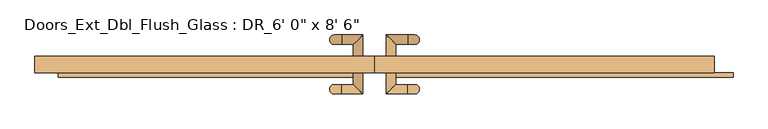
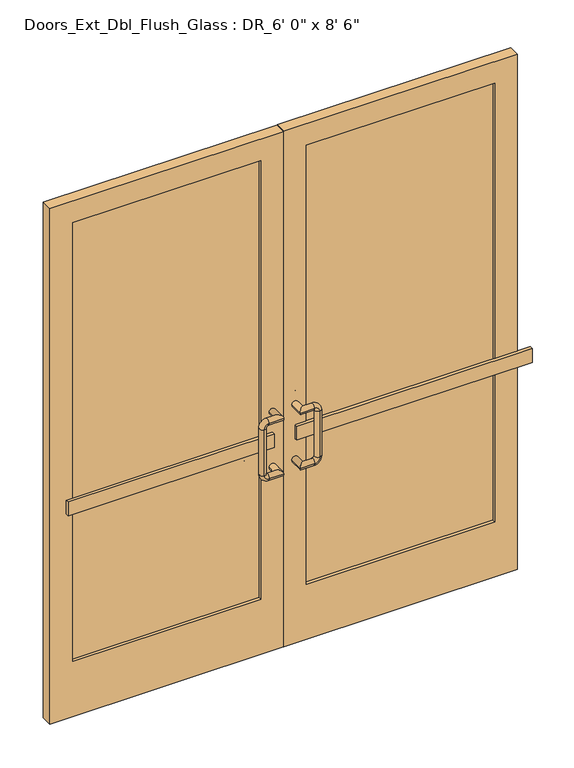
"""IFC4 building model written with IfcOpenShell, lengths in millimetres: door geometry."""

from ifc_helpers import new_model, si_unit, point, frame, origin, place, context, project, spatial, polyline, circle_curve, ellipse_curve, trimmed, outline, extrude, source, transform, mapped, element, save
from ifc_brep_helpers import plane_surface, cylinder_surface, revolved_surface, advanced_brep


def door_29626e21(model_context):
    return source(origin(), model_context, "Body", "SolidModel", [
        advanced_brep(
        [(-31.75, 57.15, 762.0), (-57.15, 57.15, 762.0), (-31.75, 114.3, 762.0), (-57.15, 88.9, 762.0), (-88.9, 114.3, 762.0), (-88.9, 88.9, 762.0), (-107.95, 88.9, 781.05), (-107.95, 114.3, 781.05), (-107.95, 114.3, 971.55), (-107.95, 88.9, 971.55), (-88.9, 88.9, 990.6), (-88.9, 114.3, 990.6), (-31.75, 114.3, 990.6), (-57.15, 88.9, 990.6), (-31.75, 57.15, 990.6), (-57.15, 57.15, 990.6)],
        [
            (0, 1, circle_curve(frame((-44.45, 57.15, 762.0), z_axis=(0.0, -1.0, 0.0), x_axis=(-1.0, 0.0, 0.0)), 12.7)),
            (1, 0, circle_curve(frame((-44.45, 57.15, 762.0), z_axis=(0.0, -1.0, 0.0), x_axis=(-1.0, 0.0, 0.0)), 12.7)),
            (0, 2),
            (2, 3, ellipse_curve(frame((-44.45, 101.6, 762.0), z_axis=(0.7071067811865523, -0.7071067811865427, 0.0), x_axis=(-0.7071067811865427, -0.7071067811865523, 0.0)), 17.9605122, 12.7)),
            (3, 1),
            (3, 2, ellipse_curve(frame((-44.45, 101.6, 762.0), z_axis=(0.7071067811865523, -0.7071067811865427, 0.0), x_axis=(-0.7071067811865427, -0.7071067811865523, 0.0)), 17.9605122, 12.7)),
            (2, 4),
            (4, 5, circle_curve(frame((-88.9, 101.6, 762.0), z_axis=(1.0, 0.0, 0.0), x_axis=(0.0, -1.0, 0.0)), 12.7)),
            (5, 3),
            (5, 4, circle_curve(frame((-88.9, 101.6, 762.0), z_axis=(1.0, 0.0, 0.0), x_axis=(0.0, -1.0, 0.0)), 12.7)),
            (6, 5, circle_curve(frame((-88.9, 88.9, 781.05), z_axis=(0.0, -1.0, 0.0), x_axis=(0.0, 0.0, -1.0)), 19.05)),
            (4, 7, circle_curve(frame((-88.9, 114.3, 781.05), z_axis=(0.0, 1.0, 0.0), x_axis=(0.0, 0.0, -1.0)), 19.05)),
            (7, 6, circle_curve(frame((-107.95, 101.6, 781.05), z_axis=(0.0, 0.0, -1.0), x_axis=(0.0, -1.0, 0.0)), 12.7)),
            (6, 7, circle_curve(frame((-107.95, 101.6, 781.05), z_axis=(0.0, 0.0, -1.0), x_axis=(0.0, -1.0, 0.0)), 12.7)),
            (7, 8),
            (8, 9, circle_curve(frame((-107.95, 101.6, 971.55), z_axis=(0.0, 0.0, -1.0), x_axis=(0.0, -1.0, 0.0)), 12.7)),
            (9, 6),
            (9, 8, circle_curve(frame((-107.95, 101.6, 971.55), z_axis=(0.0, 0.0, -1.0), x_axis=(0.0, -1.0, 0.0)), 12.7)),
            (10, 9, circle_curve(frame((-88.9, 88.9, 971.55), z_axis=(0.0, -1.0, 0.0), x_axis=(-1.0, 0.0, 0.0)), 19.05)),
            (8, 11, circle_curve(frame((-88.9, 114.3, 971.55), z_axis=(0.0, 1.0, 0.0), x_axis=(-1.0, 0.0, 0.0)), 19.05)),
            (11, 10, circle_curve(frame((-88.9, 101.6, 990.6), z_axis=(-1.0, 0.0, 0.0), x_axis=(0.0, -1.0, 0.0)), 12.7)),
            (10, 11, circle_curve(frame((-88.9, 101.6, 990.6), z_axis=(-1.0, 0.0, 0.0), x_axis=(0.0, -1.0, 0.0)), 12.7)),
            (11, 12),
            (12, 13, ellipse_curve(frame((-44.45, 101.6, 990.6), z_axis=(-0.7071067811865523, 0.7071067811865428, 0.0), x_axis=(-0.7071067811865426, -0.7071067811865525, 0.0)), 17.9605122, 12.7)),
            (13, 10),
            (13, 12, ellipse_curve(frame((-44.45, 101.6, 990.6), z_axis=(-0.7071067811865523, 0.7071067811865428, 0.0), x_axis=(-0.7071067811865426, -0.7071067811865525, 0.0)), 17.9605122, 12.7)),
            (14, 15, circle_curve(frame((-44.45, 57.15, 990.6), z_axis=(0.0, -1.0, 0.0), x_axis=(-1.0, 0.0, 0.0)), 12.7)),
            (15, 14, circle_curve(frame((-44.45, 57.15, 990.6), z_axis=(0.0, -1.0, 0.0), x_axis=(-1.0, 0.0, 0.0)), 12.7)),
            (12, 14),
            (15, 13),
        ],
        [
            plane_surface(frame((-44.45, 57.15, 749.3), z_axis=(0.0, -1.0, 0.0), x_axis=(-1.0, 0.0, 0.0))),
            cylinder_surface(frame((-44.45, 57.15, 762.0), z_axis=(0.0, -1.0, 0.0), x_axis=(-1.0, 0.0, 0.0)), 12.7),
            cylinder_surface(frame((-44.45, 101.6, 762.0), z_axis=(1.0, 0.0, 0.0), x_axis=(0.0, -1.0, 0.0)), 12.7),
            revolved_surface(trimmed(ellipse_curve(frame((-88.9, 101.6, 762.0), z_axis=(1.0, 0.0, 0.0), x_axis=(0.0, -1.0, 0.0)), 12.7, 12.7), [point((-88.9, 114.3, 762.0))], [point((-88.9, 88.9, 762.0))], True, "CARTESIAN"), (-88.9, 101.6, 781.05), (0.0, 1.0, 0.0)),
            revolved_surface(trimmed(ellipse_curve(frame((-88.9, 101.6, 762.0), z_axis=(1.0, 0.0, 0.0), x_axis=(0.0, -1.0, 0.0)), 12.7, 12.7), [point((-88.9, 88.9, 762.0))], [point((-88.9, 114.3, 762.0))], True, "CARTESIAN"), (-88.9, 101.6, 781.05), (0.0, 1.0, 0.0)),
            cylinder_surface(frame((-107.95, 101.6, 781.05), z_axis=(0.0, 0.0, -1.0), x_axis=(0.0, -1.0, 0.0)), 12.7),
            revolved_surface(trimmed(ellipse_curve(frame((-107.95, 101.6, 971.55), z_axis=(0.0, 0.0, -1.0), x_axis=(0.0, -1.0, 0.0)), 12.7, 12.7), [point((-107.95, 114.3, 971.55))], [point((-107.95, 88.9, 971.55))], True, "CARTESIAN"), (-88.9, 101.6, 971.55), (0.0, 1.0, 0.0)),
            revolved_surface(trimmed(ellipse_curve(frame((-107.95, 101.6, 971.55), z_axis=(0.0, 0.0, -1.0), x_axis=(0.0, -1.0, 0.0)), 12.7, 12.7), [point((-107.95, 88.9, 971.55))], [point((-107.95, 114.3, 971.55))], True, "CARTESIAN"), (-88.9, 101.6, 971.55), (0.0, 1.0, 0.0)),
            cylinder_surface(frame((-88.9, 101.6, 990.6), z_axis=(-1.0, 0.0, 0.0), x_axis=(0.0, -1.0, 0.0)), 12.7),
            plane_surface(frame((-44.45, 57.15, 977.9), z_axis=(0.0, -1.0, 0.0), x_axis=(1.0, 0.0, 0.0))),
            cylinder_surface(frame((-44.45, 101.6, 990.6), z_axis=(0.0, 1.0, 0.0), x_axis=(-1.0, 0.0, 0.0)), 12.7),
        ],
        [
            (0, [[1, 2]]),
            (1, [[-1, 3, 4, 5]]),
            (1, [[-2, -5, 6, -3]]),
            (2, [[-4, 7, 8, 9]]),
            (2, [[-6, -9, 10, -7]]),
            (3, [[11, -8, 12, 13]]),
            (4, [[-12, -10, -11, 14]]),
            (5, [[-13, 15, 16, 17]]),
            (5, [[-14, -17, 18, -15]]),
            (6, [[19, -16, 20, 21]]),
            (7, [[-20, -18, -19, 22]]),
            (8, [[-21, 23, 24, 25]]),
            (8, [[-22, -25, 26, -23]]),
            (9, [[27, 28]]),
            (10, [[-24, 29, -28, 30]]),
            (10, [[-26, -30, -27, -29]]),
        ],
    ),
        advanced_brep(
        [(31.75, 57.15, 990.6), (57.15, 57.15, 990.6), (31.75, 114.3, 990.6), (57.15, 88.9, 990.6), (88.9, 114.3, 990.6), (88.9, 88.9, 990.6), (107.95, 88.9, 971.55), (107.95, 114.3, 971.55), (107.95, 114.3, 781.05), (107.95, 88.9, 781.05), (88.9, 88.9, 762.0), (88.9, 114.3, 762.0), (31.75, 114.3, 762.0), (57.15, 88.9, 762.0), (31.75, 57.15, 762.0), (57.15, 57.15, 762.0)],
        [
            (0, 1, circle_curve(frame((44.45, 57.15, 990.6), z_axis=(0.0, -1.0, 0.0), x_axis=(1.0, 0.0, 0.0)), 12.7)),
            (1, 0, circle_curve(frame((44.45, 57.15, 990.6), z_axis=(0.0, -1.0, 0.0), x_axis=(1.0, 0.0, 0.0)), 12.7)),
            (0, 2),
            (2, 3, ellipse_curve(frame((44.45, 101.6, 990.6), z_axis=(-0.7071067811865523, -0.7071067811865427, 0.0), x_axis=(0.7071067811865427, -0.7071067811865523, 0.0)), 17.9605122, 12.7)),
            (3, 1),
            (3, 2, ellipse_curve(frame((44.45, 101.6, 990.6), z_axis=(-0.7071067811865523, -0.7071067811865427, 0.0), x_axis=(0.7071067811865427, -0.7071067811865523, 0.0)), 17.9605122, 12.7)),
            (2, 4),
            (4, 5, circle_curve(frame((88.9, 101.6, 990.6), z_axis=(-1.0, 0.0, 0.0), x_axis=(0.0, -1.0, 0.0)), 12.7)),
            (5, 3),
            (5, 4, circle_curve(frame((88.9, 101.6, 990.6), z_axis=(-1.0, 0.0, 0.0), x_axis=(0.0, -1.0, 0.0)), 12.7)),
            (6, 5, circle_curve(frame((88.9, 88.9, 971.55), z_axis=(0.0, -1.0, 0.0), x_axis=(0.0, 0.0, 1.0)), 19.05)),
            (4, 7, circle_curve(frame((88.9, 114.3, 971.55), z_axis=(0.0, 1.0, 0.0), x_axis=(0.0, 0.0, 1.0)), 19.05)),
            (7, 6, circle_curve(frame((107.95, 101.6, 971.55), z_axis=(0.0, 0.0, 1.0), x_axis=(0.0, -1.0, 0.0)), 12.7)),
            (6, 7, circle_curve(frame((107.95, 101.6, 971.55), z_axis=(0.0, 0.0, 1.0), x_axis=(0.0, -1.0, 0.0)), 12.7)),
            (7, 8),
            (8, 9, circle_curve(frame((107.95, 101.6, 781.05), z_axis=(0.0, 0.0, 1.0), x_axis=(0.0, -1.0, 0.0)), 12.7)),
            (9, 6),
            (9, 8, circle_curve(frame((107.95, 101.6, 781.05), z_axis=(0.0, 0.0, 1.0), x_axis=(0.0, -1.0, 0.0)), 12.7)),
            (10, 9, circle_curve(frame((88.9, 88.9, 781.05), z_axis=(0.0, -1.0, 0.0), x_axis=(1.0, 0.0, 0.0)), 19.05)),
            (8, 11, circle_curve(frame((88.9, 114.3, 781.05), z_axis=(0.0, 1.0, 0.0), x_axis=(1.0, 0.0, 0.0)), 19.05)),
            (11, 10, circle_curve(frame((88.9, 101.6, 762.0), z_axis=(1.0, 0.0, 0.0), x_axis=(0.0, -1.0, 0.0)), 12.7)),
            (10, 11, circle_curve(frame((88.9, 101.6, 762.0), z_axis=(1.0, 0.0, 0.0), x_axis=(0.0, -1.0, 0.0)), 12.7)),
            (11, 12),
            (12, 13, ellipse_curve(frame((44.45, 101.6, 762.0), z_axis=(0.7071067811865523, 0.7071067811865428, 0.0), x_axis=(0.7071067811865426, -0.7071067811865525, 0.0)), 17.9605122, 12.7)),
            (13, 10),
            (13, 12, ellipse_curve(frame((44.45, 101.6, 762.0), z_axis=(0.7071067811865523, 0.7071067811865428, 0.0), x_axis=(0.7071067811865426, -0.7071067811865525, 0.0)), 17.9605122, 12.7)),
            (14, 15, circle_curve(frame((44.45, 57.15, 762.0), z_axis=(0.0, -1.0, 0.0), x_axis=(1.0, 0.0, 0.0)), 12.7)),
            (15, 14, circle_curve(frame((44.45, 57.15, 762.0), z_axis=(0.0, -1.0, 0.0), x_axis=(1.0, 0.0, 0.0)), 12.7)),
            (12, 14),
            (15, 13),
        ],
        [
            plane_surface(frame((44.45, 57.15, 1003.3), z_axis=(0.0, -1.0, 0.0), x_axis=(1.0, 0.0, 0.0))),
            cylinder_surface(frame((44.45, 57.15, 990.6), z_axis=(0.0, -1.0, 0.0), x_axis=(1.0, 0.0, 0.0)), 12.7),
            cylinder_surface(frame((44.45, 101.6, 990.6), z_axis=(-1.0, 0.0, 0.0), x_axis=(0.0, -1.0, 0.0)), 12.7),
            revolved_surface(trimmed(ellipse_curve(frame((88.9, 101.6, 990.6), z_axis=(-1.0, 0.0, 0.0), x_axis=(0.0, -1.0, 0.0)), 12.7, 12.7), [point((88.9, 114.3, 990.6))], [point((88.9, 88.9, 990.6))], True, "CARTESIAN"), (88.9, 101.6, 971.55), (0.0, 1.0, 0.0)),
            revolved_surface(trimmed(ellipse_curve(frame((88.9, 101.6, 990.6), z_axis=(-1.0, 0.0, 0.0), x_axis=(0.0, -1.0, 0.0)), 12.7, 12.7), [point((88.9, 88.9, 990.6))], [point((88.9, 114.3, 990.6))], True, "CARTESIAN"), (88.9, 101.6, 971.55), (0.0, 1.0, 0.0)),
            cylinder_surface(frame((107.95, 101.6, 971.55), z_axis=(0.0, 0.0, 1.0), x_axis=(0.0, -1.0, 0.0)), 12.7),
            revolved_surface(trimmed(ellipse_curve(frame((107.95, 101.6, 781.05), z_axis=(0.0, 0.0, 1.0), x_axis=(0.0, -1.0, 0.0)), 12.7, 12.7), [point((107.95, 114.3, 781.05))], [point((107.95, 88.9, 781.05))], True, "CARTESIAN"), (88.9, 101.6, 781.05), (0.0, 1.0, 0.0)),
            revolved_surface(trimmed(ellipse_curve(frame((107.95, 101.6, 781.05), z_axis=(0.0, 0.0, 1.0), x_axis=(0.0, -1.0, 0.0)), 12.7, 12.7), [point((107.95, 88.9, 781.05))], [point((107.95, 114.3, 781.05))], True, "CARTESIAN"), (88.9, 101.6, 781.05), (0.0, 1.0, 0.0)),
            cylinder_surface(frame((88.9, 101.6, 762.0), z_axis=(1.0, 0.0, 0.0), x_axis=(0.0, -1.0, 0.0)), 12.7),
            plane_surface(frame((44.45, 57.15, 774.7), z_axis=(0.0, -1.0, 0.0), x_axis=(-1.0, 0.0, 0.0))),
            cylinder_surface(frame((44.45, 101.6, 762.0), z_axis=(0.0, 1.0, 0.0), x_axis=(1.0, 0.0, 0.0)), 12.7),
        ],
        [
            (0, [[1, 2]]),
            (1, [[-1, 3, 4, 5]]),
            (1, [[-2, -5, 6, -3]]),
            (2, [[-4, 7, 8, 9]]),
            (2, [[-6, -9, 10, -7]]),
            (3, [[11, -8, 12, 13]]),
            (4, [[-12, -10, -11, 14]]),
            (5, [[-13, 15, 16, 17]]),
            (5, [[-14, -17, 18, -15]]),
            (6, [[19, -16, 20, 21]]),
            (7, [[-20, -18, -19, 22]]),
            (8, [[-21, 23, 24, 25]]),
            (8, [[-22, -25, 26, -23]]),
            (9, [[27, 28]]),
            (10, [[-24, 29, -28, 30]]),
            (10, [[-26, -30, -27, -29]]),
        ],
    ),
        advanced_brep(
        [(-31.75, 12.7, 990.6), (-57.15, 12.7, 990.6), (-31.75, -44.45, 990.6), (-57.15, -19.05, 990.6), (-88.9, -44.45, 990.6), (-88.9, -19.05, 990.6), (-107.95, -19.05, 971.55), (-107.95, -44.45, 971.55), (-107.95, -44.45, 781.05), (-107.95, -19.05, 781.05), (-88.9, -19.05, 762.0), (-88.9, -44.45, 762.0), (-31.75, -44.45, 762.0), (-57.15, -19.05, 762.0), (-31.75, 12.7, 762.0), (-57.15, 12.7, 762.0)],
        [
            (0, 1, circle_curve(frame((-44.45, 12.7, 990.6), z_axis=(0.0, 1.0, 0.0), x_axis=(-1.0, 0.0, 0.0)), 12.7)),
            (1, 0, circle_curve(frame((-44.45, 12.7, 990.6), z_axis=(0.0, 1.0, 0.0), x_axis=(-1.0, 0.0, 0.0)), 12.7)),
            (0, 2),
            (2, 3, ellipse_curve(frame((-44.45, -31.75, 990.6), z_axis=(0.7071067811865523, 0.7071067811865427, 0.0), x_axis=(-0.7071067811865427, 0.7071067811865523, 0.0)), 17.9605122, 12.7)),
            (3, 1),
            (3, 2, ellipse_curve(frame((-44.45, -31.75, 990.6), z_axis=(0.7071067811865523, 0.7071067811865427, 0.0), x_axis=(-0.7071067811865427, 0.7071067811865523, 0.0)), 17.9605122, 12.7)),
            (2, 4),
            (4, 5, circle_curve(frame((-88.9, -31.75, 990.6), z_axis=(1.0, 0.0, 0.0), x_axis=(0.0, 1.0, 0.0)), 12.7)),
            (5, 3),
            (5, 4, circle_curve(frame((-88.9, -31.75, 990.6), z_axis=(1.0, 0.0, 0.0), x_axis=(0.0, 1.0, 0.0)), 12.7)),
            (6, 5, circle_curve(frame((-88.9, -19.05, 971.55), z_axis=(0.0, 1.0, 0.0), x_axis=(0.0, 0.0, 1.0)), 19.05)),
            (4, 7, circle_curve(frame((-88.9, -44.45, 971.55), z_axis=(0.0, -1.0, 0.0), x_axis=(0.0, 0.0, 1.0)), 19.05)),
            (7, 6, circle_curve(frame((-107.95, -31.75, 971.55), z_axis=(0.0, 0.0, 1.0), x_axis=(0.0, 1.0, 0.0)), 12.7)),
            (6, 7, circle_curve(frame((-107.95, -31.75, 971.55), z_axis=(0.0, 0.0, 1.0), x_axis=(0.0, 1.0, 0.0)), 12.7)),
            (7, 8),
            (8, 9, circle_curve(frame((-107.95, -31.75, 781.05), z_axis=(0.0, 0.0, 1.0), x_axis=(0.0, 1.0, 0.0)), 12.7)),
            (9, 6),
            (9, 8, circle_curve(frame((-107.95, -31.75, 781.05), z_axis=(0.0, 0.0, 1.0), x_axis=(0.0, 1.0, 0.0)), 12.7)),
            (10, 9, circle_curve(frame((-88.9, -19.05, 781.05), z_axis=(0.0, 1.0, 0.0), x_axis=(-1.0, 0.0, 0.0)), 19.05)),
            (8, 11, circle_curve(frame((-88.9, -44.45, 781.05), z_axis=(0.0, -1.0, 0.0), x_axis=(-1.0, 0.0, 0.0)), 19.05)),
            (11, 10, circle_curve(frame((-88.9, -31.75, 762.0), z_axis=(-1.0, 0.0, 0.0), x_axis=(0.0, 1.0, 0.0)), 12.7)),
            (10, 11, circle_curve(frame((-88.9, -31.75, 762.0), z_axis=(-1.0, 0.0, 0.0), x_axis=(0.0, 1.0, 0.0)), 12.7)),
            (11, 12),
            (12, 13, ellipse_curve(frame((-44.45, -31.75, 762.0), z_axis=(-0.7071067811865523, -0.7071067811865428, 0.0), x_axis=(-0.7071067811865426, 0.7071067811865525, 0.0)), 17.9605122, 12.7)),
            (13, 10),
            (13, 12, ellipse_curve(frame((-44.45, -31.75, 762.0), z_axis=(-0.7071067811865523, -0.7071067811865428, 0.0), x_axis=(-0.7071067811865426, 0.7071067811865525, 0.0)), 17.9605122, 12.7)),
            (14, 15, circle_curve(frame((-44.45, 12.7, 762.0), z_axis=(0.0, 1.0, 0.0), x_axis=(-1.0, 0.0, 0.0)), 12.7)),
            (15, 14, circle_curve(frame((-44.45, 12.7, 762.0), z_axis=(0.0, 1.0, 0.0), x_axis=(-1.0, 0.0, 0.0)), 12.7)),
            (12, 14),
            (15, 13),
        ],
        [
            plane_surface(frame((-44.45, 12.7, 1003.3), z_axis=(0.0, 1.0, 0.0), x_axis=(-1.0, 0.0, 0.0))),
            cylinder_surface(frame((-44.45, 12.7, 990.6), z_axis=(0.0, 1.0, 0.0), x_axis=(-1.0, 0.0, 0.0)), 12.7),
            cylinder_surface(frame((-44.45, -31.75, 990.6), z_axis=(1.0, 0.0, 0.0), x_axis=(0.0, 1.0, 0.0)), 12.7),
            revolved_surface(trimmed(ellipse_curve(frame((-88.9, -31.75, 990.6), z_axis=(1.0, 0.0, 0.0), x_axis=(0.0, 1.0, 0.0)), 12.7, 12.7), [point((-88.9, -44.45, 990.6))], [point((-88.9, -19.05, 990.6))], True, "CARTESIAN"), (-88.9, -31.75, 971.55), (0.0, -1.0, 0.0)),
            revolved_surface(trimmed(ellipse_curve(frame((-88.9, -31.75, 990.6), z_axis=(1.0, 0.0, 0.0), x_axis=(0.0, 1.0, 0.0)), 12.7, 12.7), [point((-88.9, -19.05, 990.6))], [point((-88.9, -44.45, 990.6))], True, "CARTESIAN"), (-88.9, -31.75, 971.55), (0.0, -1.0, 0.0)),
            cylinder_surface(frame((-107.95, -31.75, 971.55), z_axis=(0.0, 0.0, 1.0), x_axis=(0.0, 1.0, 0.0)), 12.7),
            revolved_surface(trimmed(ellipse_curve(frame((-107.95, -31.75, 781.05), z_axis=(0.0, 0.0, 1.0), x_axis=(0.0, 1.0, 0.0)), 12.7, 12.7), [point((-107.95, -44.45, 781.05))], [point((-107.95, -19.05, 781.05))], True, "CARTESIAN"), (-88.9, -31.75, 781.05), (0.0, -1.0, 0.0)),
            revolved_surface(trimmed(ellipse_curve(frame((-107.95, -31.75, 781.05), z_axis=(0.0, 0.0, 1.0), x_axis=(0.0, 1.0, 0.0)), 12.7, 12.7), [point((-107.95, -19.05, 781.05))], [point((-107.95, -44.45, 781.05))], True, "CARTESIAN"), (-88.9, -31.75, 781.05), (0.0, -1.0, 0.0)),
            cylinder_surface(frame((-88.9, -31.75, 762.0), z_axis=(-1.0, 0.0, 0.0), x_axis=(0.0, 1.0, 0.0)), 12.7),
            plane_surface(frame((-44.45, 12.7, 774.7), z_axis=(0.0, 1.0, 0.0), x_axis=(1.0, 0.0, 0.0))),
            cylinder_surface(frame((-44.45, -31.75, 762.0), z_axis=(0.0, -1.0, 0.0), x_axis=(-1.0, 0.0, 0.0)), 12.7),
        ],
        [
            (0, [[1, 2]]),
            (1, [[-1, 3, 4, 5]]),
            (1, [[-2, -5, 6, -3]]),
            (2, [[-4, 7, 8, 9]]),
            (2, [[-6, -9, 10, -7]]),
            (3, [[11, -8, 12, 13]]),
            (4, [[-12, -10, -11, 14]]),
            (5, [[-13, 15, 16, 17]]),
            (5, [[-14, -17, 18, -15]]),
            (6, [[19, -16, 20, 21]]),
            (7, [[-20, -18, -19, 22]]),
            (8, [[-21, 23, 24, 25]]),
            (8, [[-22, -25, 26, -23]]),
            (9, [[27, 28]]),
            (10, [[-24, 29, -28, 30]]),
            (10, [[-26, -30, -27, -29]]),
        ],
    ),
        advanced_brep(
        [(31.75, 12.7, 762.0), (57.15, 12.7, 762.0), (31.75, -44.45, 762.0), (57.15, -19.05, 762.0), (88.9, -44.45, 762.0), (88.9, -19.05, 762.0), (107.95, -19.05, 781.05), (107.95, -44.45, 781.05), (107.95, -44.45, 971.55), (107.95, -19.05, 971.55), (88.9, -19.05, 990.6), (88.9, -44.45, 990.6), (31.75, -44.45, 990.6), (57.15, -19.05, 990.6), (31.75, 12.7, 990.6), (57.15, 12.7, 990.6)],
        [
            (0, 1, circle_curve(frame((44.45, 12.7, 762.0), z_axis=(0.0, 1.0, 0.0), x_axis=(1.0, 0.0, 0.0)), 12.7)),
            (1, 0, circle_curve(frame((44.45, 12.7, 762.0), z_axis=(0.0, 1.0, 0.0), x_axis=(1.0, 0.0, 0.0)), 12.7)),
            (0, 2),
            (2, 3, ellipse_curve(frame((44.45, -31.75, 762.0), z_axis=(-0.7071067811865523, 0.7071067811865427, 0.0), x_axis=(0.7071067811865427, 0.7071067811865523, 0.0)), 17.9605122, 12.7)),
            (3, 1),
            (3, 2, ellipse_curve(frame((44.45, -31.75, 762.0), z_axis=(-0.7071067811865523, 0.7071067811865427, 0.0), x_axis=(0.7071067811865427, 0.7071067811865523, 0.0)), 17.9605122, 12.7)),
            (2, 4),
            (4, 5, circle_curve(frame((88.9, -31.75, 762.0), z_axis=(-1.0, 0.0, 0.0), x_axis=(0.0, 1.0, 0.0)), 12.7)),
            (5, 3),
            (5, 4, circle_curve(frame((88.9, -31.75, 762.0), z_axis=(-1.0, 0.0, 0.0), x_axis=(0.0, 1.0, 0.0)), 12.7)),
            (6, 5, circle_curve(frame((88.9, -19.05, 781.05), z_axis=(0.0, 1.0, 0.0), x_axis=(0.0, 0.0, -1.0)), 19.05)),
            (4, 7, circle_curve(frame((88.9, -44.45, 781.05), z_axis=(0.0, -1.0, 0.0), x_axis=(0.0, 0.0, -1.0)), 19.05)),
            (7, 6, circle_curve(frame((107.95, -31.75, 781.05), z_axis=(0.0, 0.0, -1.0), x_axis=(0.0, 1.0, 0.0)), 12.7)),
            (6, 7, circle_curve(frame((107.95, -31.75, 781.05), z_axis=(0.0, 0.0, -1.0), x_axis=(0.0, 1.0, 0.0)), 12.7)),
            (7, 8),
            (8, 9, circle_curve(frame((107.95, -31.75, 971.55), z_axis=(0.0, 0.0, -1.0), x_axis=(0.0, 1.0, 0.0)), 12.7)),
            (9, 6),
            (9, 8, circle_curve(frame((107.95, -31.75, 971.55), z_axis=(0.0, 0.0, -1.0), x_axis=(0.0, 1.0, 0.0)), 12.7)),
            (10, 9, circle_curve(frame((88.9, -19.05, 971.55), z_axis=(0.0, 1.0, 0.0), x_axis=(1.0, 0.0, 0.0)), 19.05)),
            (8, 11, circle_curve(frame((88.9, -44.45, 971.55), z_axis=(0.0, -1.0, 0.0), x_axis=(1.0, 0.0, 0.0)), 19.05)),
            (11, 10, circle_curve(frame((88.9, -31.75, 990.6), z_axis=(1.0, 0.0, 0.0), x_axis=(0.0, 1.0, 0.0)), 12.7)),
            (10, 11, circle_curve(frame((88.9, -31.75, 990.6), z_axis=(1.0, 0.0, 0.0), x_axis=(0.0, 1.0, 0.0)), 12.7)),
            (11, 12),
            (12, 13, ellipse_curve(frame((44.45, -31.75, 990.6), z_axis=(0.7071067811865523, -0.7071067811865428, 0.0), x_axis=(0.7071067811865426, 0.7071067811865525, 0.0)), 17.9605122, 12.7)),
            (13, 10),
            (13, 12, ellipse_curve(frame((44.45, -31.75, 990.6), z_axis=(0.7071067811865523, -0.7071067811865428, 0.0), x_axis=(0.7071067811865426, 0.7071067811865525, 0.0)), 17.9605122, 12.7)),
            (14, 15, circle_curve(frame((44.45, 12.7, 990.6), z_axis=(0.0, 1.0, 0.0), x_axis=(1.0, 0.0, 0.0)), 12.7)),
            (15, 14, circle_curve(frame((44.45, 12.7, 990.6), z_axis=(0.0, 1.0, 0.0), x_axis=(1.0, 0.0, 0.0)), 12.7)),
            (12, 14),
            (15, 13),
        ],
        [
            plane_surface(frame((44.45, 12.7, 749.3), z_axis=(0.0, 1.0, 0.0), x_axis=(1.0, 0.0, 0.0))),
            cylinder_surface(frame((44.45, 12.7, 762.0), z_axis=(0.0, 1.0, 0.0), x_axis=(1.0, 0.0, 0.0)), 12.7),
            cylinder_surface(frame((44.45, -31.75, 762.0), z_axis=(-1.0, 0.0, 0.0), x_axis=(0.0, 1.0, 0.0)), 12.7),
            revolved_surface(trimmed(ellipse_curve(frame((88.9, -31.75, 762.0), z_axis=(-1.0, 0.0, 0.0), x_axis=(0.0, 1.0, 0.0)), 12.7, 12.7), [point((88.9, -44.45, 762.0))], [point((88.9, -19.05, 762.0))], True, "CARTESIAN"), (88.9, -31.75, 781.05), (0.0, -1.0, 0.0)),
            revolved_surface(trimmed(ellipse_curve(frame((88.9, -31.75, 762.0), z_axis=(-1.0, 0.0, 0.0), x_axis=(0.0, 1.0, 0.0)), 12.7, 12.7), [point((88.9, -19.05, 762.0))], [point((88.9, -44.45, 762.0))], True, "CARTESIAN"), (88.9, -31.75, 781.05), (0.0, -1.0, 0.0)),
            cylinder_surface(frame((107.95, -31.75, 781.05), z_axis=(0.0, 0.0, -1.0), x_axis=(0.0, 1.0, 0.0)), 12.7),
            revolved_surface(trimmed(ellipse_curve(frame((107.95, -31.75, 971.55), z_axis=(0.0, 0.0, -1.0), x_axis=(0.0, 1.0, 0.0)), 12.7, 12.7), [point((107.95, -44.45, 971.55))], [point((107.95, -19.05, 971.55))], True, "CARTESIAN"), (88.9, -31.75, 971.55), (0.0, -1.0, 0.0)),
            revolved_surface(trimmed(ellipse_curve(frame((107.95, -31.75, 971.55), z_axis=(0.0, 0.0, -1.0), x_axis=(0.0, 1.0, 0.0)), 12.7, 12.7), [point((107.95, -19.05, 971.55))], [point((107.95, -44.45, 971.55))], True, "CARTESIAN"), (88.9, -31.75, 971.55), (0.0, -1.0, 0.0)),
            cylinder_surface(frame((88.9, -31.75, 990.6), z_axis=(1.0, 0.0, 0.0), x_axis=(0.0, 1.0, 0.0)), 12.7),
            plane_surface(frame((44.45, 12.7, 977.9), z_axis=(0.0, 1.0, 0.0), x_axis=(-1.0, 0.0, 0.0))),
            cylinder_surface(frame((44.45, -31.75, 990.6), z_axis=(0.0, -1.0, 0.0), x_axis=(1.0, 0.0, 0.0)), 12.7),
        ],
        [
            (0, [[1, 2]]),
            (1, [[-1, 3, 4, 5]]),
            (1, [[-2, -5, 6, -3]]),
            (2, [[-4, 7, 8, 9]]),
            (2, [[-6, -9, 10, -7]]),
            (3, [[11, -8, 12, 13]]),
            (4, [[-12, -10, -11, 14]]),
            (5, [[-13, 15, 16, 17]]),
            (5, [[-14, -17, 18, -15]]),
            (6, [[19, -16, 20, 21]]),
            (7, [[-20, -18, -19, 22]]),
            (8, [[-21, 23, 24, 25]]),
            (8, [[-22, -25, 26, -23]]),
            (9, [[27, 28]]),
            (10, [[-24, 29, -28, 30]]),
            (10, [[-26, -30, -27, -29]]),
        ],
    ),
        extrude(outline(polyline([(825.5, 25.4), (88.9, 25.4), (88.9, 44.45), (825.5, 44.45), (825.5, 25.4)])), frame((0.0, 0.0, 228.6), z_axis=(0.0, 0.0, 1.0), x_axis=(1.0, 0.0, 0.0)), (0.0, 0.0, 1.0), 1816.1),
        extrude(outline(polyline([(-88.9, 25.4), (-825.5, 25.4), (-825.5, 44.45), (-88.9, 44.45), (-88.9, 25.4)])), frame((0.0, 0.0, 228.6), z_axis=(0.0, 0.0, 1.0), x_axis=(1.0, 0.0, 0.0)), (0.0, 0.0, 1.0), 1816.1),
        extrude(outline(polyline([(2133.6, 0.79375), (0.0, 0.79375), (0.0, 914.4), (2133.6, 914.4), (2133.6, 0.79375)]), holes=[polyline([(2044.7, 88.9), (2044.7, 825.5), (228.6, 825.5), (228.6, 88.9), (2044.7, 88.9)])]), frame((0.0, 12.7, 0.0), z_axis=(0.0, 1.0, 0.0), x_axis=(0.0, 0.0, 1.0)), (0.0, 0.0, 1.0), 44.45),
        extrude(outline(polyline([(2133.6, -0.79375), (2133.6, -914.4), (0.0, -914.4), (0.0, -0.79375), (2133.6, -0.79375)]), holes=[polyline([(2044.7, -825.5), (2044.7, -88.9), (228.6, -88.9), (228.6, -825.5), (2044.7, -825.5)])]), frame((0.0, 12.7, 0.0), z_axis=(0.0, 1.0, 0.0), x_axis=(0.0, 0.0, 1.0)), (0.0, 0.0, 1.0), 44.45),
        extrude(outline(polyline([(-44.45, 0.0), (-850.9, 0.0), (-850.9, 12.7), (-44.45, 12.7), (-44.45, 0.0)])), frame((0.0, 0.0, 847.725), z_axis=(0.0, 0.0, 1.0), x_axis=(1.0, 0.0, 0.0)), (0.0, 0.0, 1.0), 57.15),
        extrude(outline(polyline([(965.1731001, 0.0), (44.45, 0.0), (44.45, 12.7), (965.1731001, 12.7), (965.1731001, 0.0)])), frame((0.0, 0.0, 847.725), z_axis=(0.0, 0.0, 1.0), x_axis=(1.0, 0.0, 0.0)), (0.0, 0.0, 1.0), 57.15),
    ])


if __name__ == "__main__":
    model = new_model("IFC4")
    model_context = context("Model", 3, world=origin())
    ifc_project = project(units=[si_unit("LENGTHUNIT", "METRE", prefix="MILLI")], contexts=[model_context])
    site = spatial("IfcSite", under=ifc_project)
    building = spatial("IfcBuilding", under=site)
    placement = place(None, origin())
    door_shape = door_29626e21(model_context)
    element("IfcDoor", 1, ObjectType="Doors_Ext_Dbl_Flush_Glass : DR_6' 0\" x 8' 6\"", at=placement, inside=building, context=model_context, shape_type="MappedRepresentation", body=[
        mapped(door_shape, transform((0.0, 0.0, 0.0), x_axis=(1.0, 0.0, 0.0), y_axis=(0.0, 1.0, 0.0), z_axis=(0.0, 0.0, 1.0))),
    ])
    save(model, "model.ifc")
